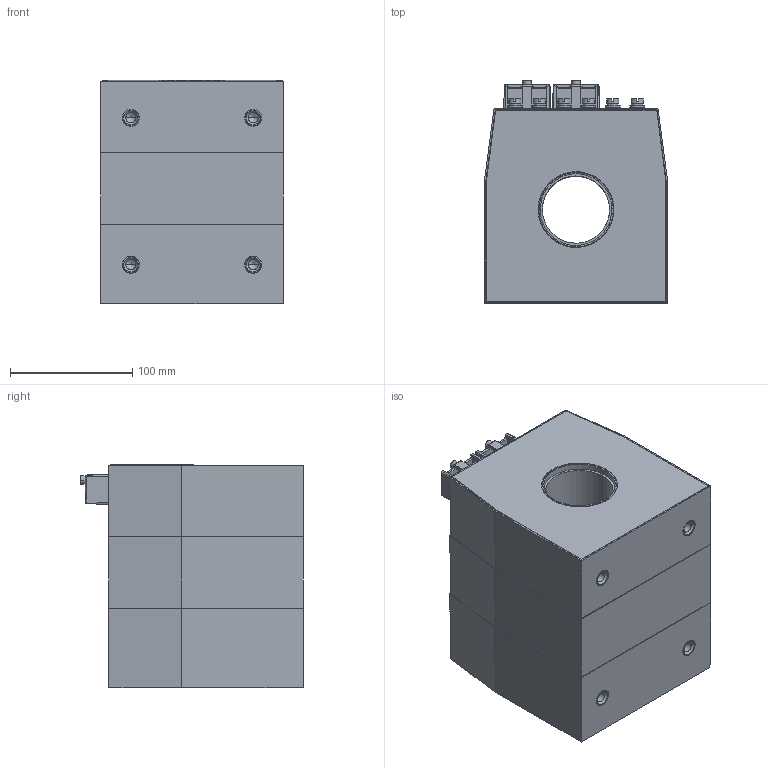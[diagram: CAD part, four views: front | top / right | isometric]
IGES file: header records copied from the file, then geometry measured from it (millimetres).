
Start section: IGES file generated from Kompas f.0 for Windows drawing by the IGES translator from Ascon Ltd., translator version IGESOUT-5.1.
Global section: file name: C:\Ðàáîòà\Èçâåùåíèÿ 5\ÒØÏ-ÍÒÇ-0.66-61...,71...,81... (ñáîðíûé)\Âåðñèÿ îò 21.05.24\3D ìîäåëü\ÒØÏ-ÍÒÇ-0,66-73À\ÒØÏ-ÍÒÇ-0,66-73À (55 ìì, 3-é ãàáàðèò).igs; native system: Kompas( 32 bit ) for Windows; preprocessor: 1.0; author: 123; organization: Microsoft; date: -17750727:093841; units: millimetre
Bounding box: 150 x 182.93 x 182.68 mm (x, y, z)
Volume: 750628.3 mm3; surface area: 473999.3 mm2
Topology: 42 solids, 42 shells, 855 faces, 1983 edges, 1223 vertices
Faces by surface type: revolution 490, bspline 365
